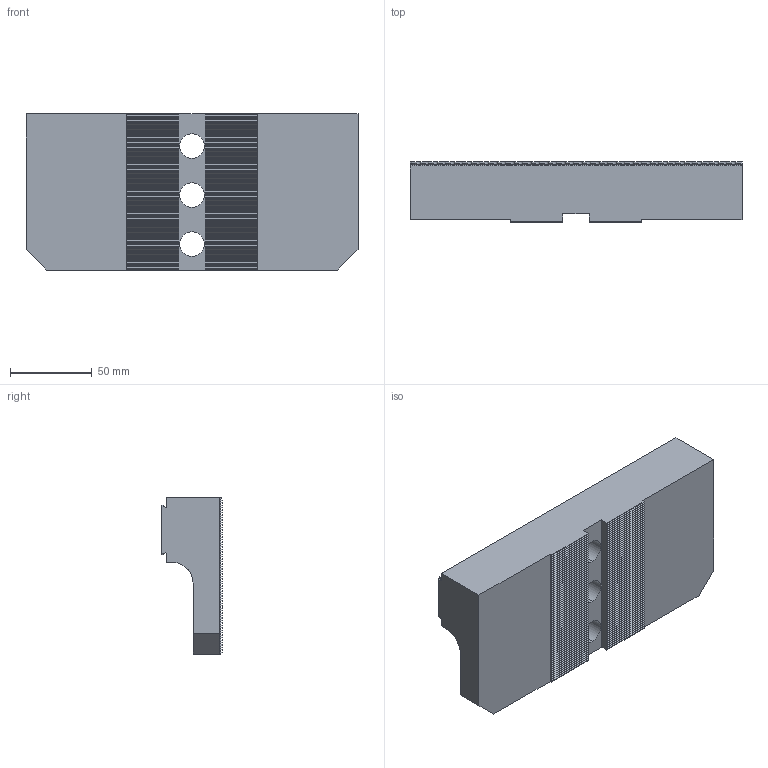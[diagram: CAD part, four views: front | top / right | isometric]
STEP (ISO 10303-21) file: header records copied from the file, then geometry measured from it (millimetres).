
FILE_DESCRIPTION (( 'STEP AP203' ), '1' );
FILE_NAME ('05-0176.STEP', '2021-09-14T23:16:53', ( '' ), ( '' ), 'SwSTEP 2.0', 'SolidWorks 2020', '' );
FILE_SCHEMA (( 'CONFIG_CONTROL_DESIGN' ));
Length unit declared in the file: inch
Products named in the file (1): 05-0176
Bounding box: 203.2 x 36.75 x 95.56 mm (x, y, z)
Volume: 449496.4 mm3; surface area: 64486.2 mm2
Topology: 1 solids, 1 shells, 869 faces, 2595 edges, 1730 vertices
Faces by surface type: plane 488, cylinder 381
Entity records: 29614 total; most frequent: CARTESIAN_POINT 6197, ORIENTED_EDGE 5190, DIRECTION 4623, EDGE_CURVE 2595, LINE 1831, VECTOR 1831, VERTEX_POINT 1730, AXIS2_PLACEMENT_3D 1396
